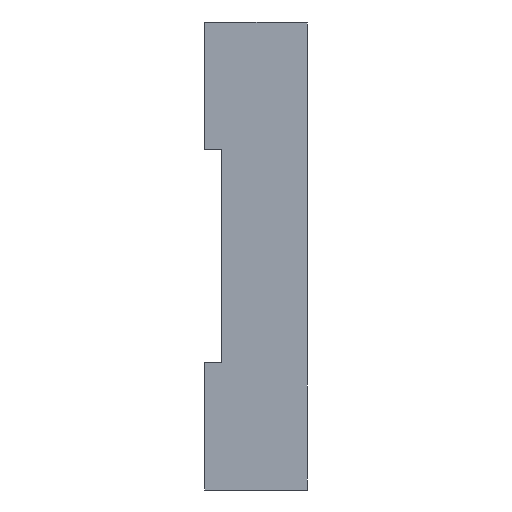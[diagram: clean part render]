
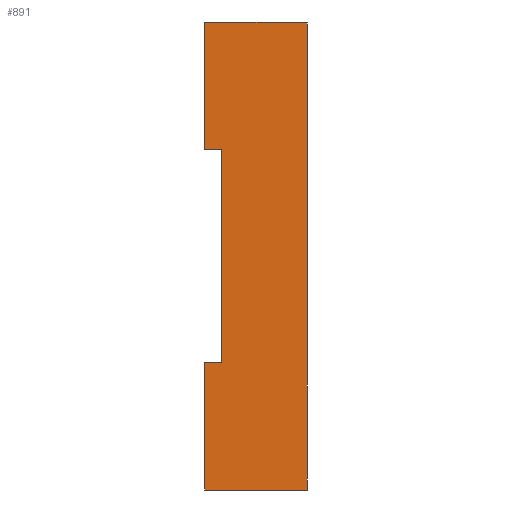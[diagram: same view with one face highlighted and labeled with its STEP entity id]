
A CAD part, left-side view. The second image highlights one B-rep face of the part: STEP entity #891.
In plain terms, the highlighted planar face has unit normal (-1, 0, 0).
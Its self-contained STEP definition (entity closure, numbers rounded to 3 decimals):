
#42 = EDGE_CURVE ( 'NONE', #629, #1287, #979, .T. ) ;
#45 = EDGE_CURVE ( 'NONE', #1286, #1287, #986, .T. ) ;
#46 = EDGE_CURVE ( 'NONE', #1279, #1286, #988, .T. ) ;
#47 = EDGE_CURVE ( 'NONE', #1279, #1203, #987, .T. ) ;
#48 = EDGE_CURVE ( 'NONE', #1285, #1192, #992, .T. ) ;
#49 = EDGE_CURVE ( 'NONE', #1271, #1285, #990, .T. ) ;
#50 = EDGE_CURVE ( 'NONE', #1271, #629, #994, .T. ) ;
#384 = LINE ( 'NONE', #1647, #387 ) ;
#387 = VECTOR ( 'NONE', #1648, 1000. ) ;
#574 = FACE_OUTER_BOUND ( 'NONE', #915, .T. ) ;
#629 = VERTEX_POINT ( 'NONE', #1498 ) ;
#702 = EDGE_CURVE ( 'NONE', #1192, #1203, #384, .T. ) ;
#792 = AXIS2_PLACEMENT_3D ( 'NONE', #2358, #2367, #2368 ) ;
#891 = ADVANCED_FACE ( 'NONE', ( #574 ), #2365, .F. ) ;
#915 = EDGE_LOOP ( 'NONE', ( #2105, #2195, #2175, #2104, #1321, #2134, #2149, #2127 ) ) ;
#979 = LINE ( 'NONE', #1751, #985 ) ;
#985 = VECTOR ( 'NONE', #1755, 1000. ) ;
#986 = LINE ( 'NONE', #1762, #989 ) ;
#987 = LINE ( 'NONE', #1761, #993 ) ;
#988 = LINE ( 'NONE', #1766, #991 ) ;
#989 = VECTOR ( 'NONE', #1757, 1000. ) ;
#990 = LINE ( 'NONE', #1756, #997 ) ;
#991 = VECTOR ( 'NONE', #1768, 1000. ) ;
#992 = LINE ( 'NONE', #1770, #995 ) ;
#993 = VECTOR ( 'NONE', #1769, 1000. ) ;
#994 = LINE ( 'NONE', #1767, #999 ) ;
#995 = VECTOR ( 'NONE', #1772, 1000. ) ;
#997 = VECTOR ( 'NONE', #1773, 1000. ) ;
#999 = VECTOR ( 'NONE', #1775, 1000. ) ;
#1192 = VERTEX_POINT ( 'NONE', #2383 ) ;
#1203 = VERTEX_POINT ( 'NONE', #2394 ) ;
#1271 = VERTEX_POINT ( 'NONE', #2462 ) ;
#1279 = VERTEX_POINT ( 'NONE', #2470 ) ;
#1285 = VERTEX_POINT ( 'NONE', #2476 ) ;
#1286 = VERTEX_POINT ( 'NONE', #2477 ) ;
#1287 = VERTEX_POINT ( 'NONE', #2478 ) ;
#1321 = ORIENTED_EDGE ( 'NONE', *, *, #702, .F. ) ;
#1498 = CARTESIAN_POINT ( 'NONE',  ( -44., 0., -27.5 ) ) ;
#1647 = CARTESIAN_POINT ( 'NONE',  ( -44., 10., -27.5 ) ) ;
#1648 = DIRECTION ( 'NONE',  ( 0., 0., 1. ) ) ;
#1751 = CARTESIAN_POINT ( 'NONE',  ( -44., 0., -27.5 ) ) ;
#1755 = DIRECTION ( 'NONE',  ( 0., 0., 1. ) ) ;
#1756 = CARTESIAN_POINT ( 'NONE',  ( -44., 12., -27.5 ) ) ;
#1757 = DIRECTION ( 'NONE',  ( 0., -1., 0. ) ) ;
#1761 = CARTESIAN_POINT ( 'NONE',  ( -44., 12., 12.5 ) ) ;
#1762 = CARTESIAN_POINT ( 'NONE',  ( -44., 10., 27.5 ) ) ;
#1766 = CARTESIAN_POINT ( 'NONE',  ( -44., 12., 27.5 ) ) ;
#1767 = CARTESIAN_POINT ( 'NONE',  ( -44., 10., -27.5 ) ) ;
#1768 = DIRECTION ( 'NONE',  ( 0., 0., 1. ) ) ;
#1769 = DIRECTION ( 'NONE',  ( 0., -1., 0. ) ) ;
#1770 = CARTESIAN_POINT ( 'NONE',  ( -44., 12., -12.5 ) ) ;
#1772 = DIRECTION ( 'NONE',  ( 0., -1., 0. ) ) ;
#1773 = DIRECTION ( 'NONE',  ( 0., 0., 1. ) ) ;
#1775 = DIRECTION ( 'NONE',  ( 0., -1., 0. ) ) ;
#2104 = ORIENTED_EDGE ( 'NONE', *, *, #47, .T. ) ;
#2105 = ORIENTED_EDGE ( 'NONE', *, *, #42, .T. ) ;
#2127 = ORIENTED_EDGE ( 'NONE', *, *, #50, .T. ) ;
#2134 = ORIENTED_EDGE ( 'NONE', *, *, #48, .F. ) ;
#2149 = ORIENTED_EDGE ( 'NONE', *, *, #49, .F. ) ;
#2175 = ORIENTED_EDGE ( 'NONE', *, *, #46, .F. ) ;
#2195 = ORIENTED_EDGE ( 'NONE', *, *, #45, .F. ) ;
#2358 = CARTESIAN_POINT ( 'NONE',  ( -44., 10., -27.5 ) ) ;
#2365 = PLANE ( 'NONE',  #792 ) ;
#2367 = DIRECTION ( 'NONE',  ( 1., 0., 0. ) ) ;
#2368 = DIRECTION ( 'NONE',  ( 0., 0., -1. ) ) ;
#2383 = CARTESIAN_POINT ( 'NONE',  ( -44., 10., -12.5 ) ) ;
#2394 = CARTESIAN_POINT ( 'NONE',  ( -44., 10., 12.5 ) ) ;
#2462 = CARTESIAN_POINT ( 'NONE',  ( -44., 12., -27.5 ) ) ;
#2470 = CARTESIAN_POINT ( 'NONE',  ( -44., 12., 12.5 ) ) ;
#2476 = CARTESIAN_POINT ( 'NONE',  ( -44., 12., -12.5 ) ) ;
#2477 = CARTESIAN_POINT ( 'NONE',  ( -44., 12., 27.5 ) ) ;
#2478 = CARTESIAN_POINT ( 'NONE',  ( -44., 0., 27.5 ) ) ;
